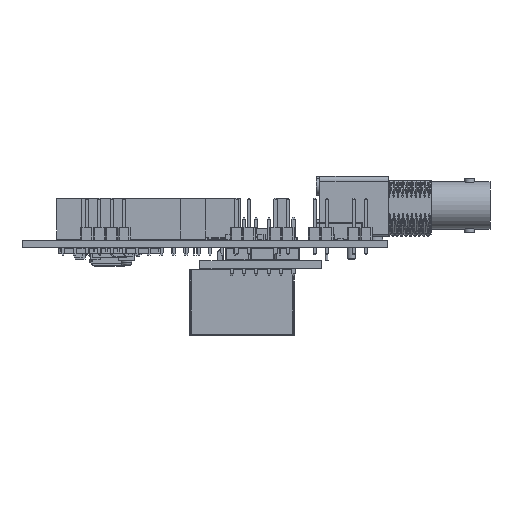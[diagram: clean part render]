
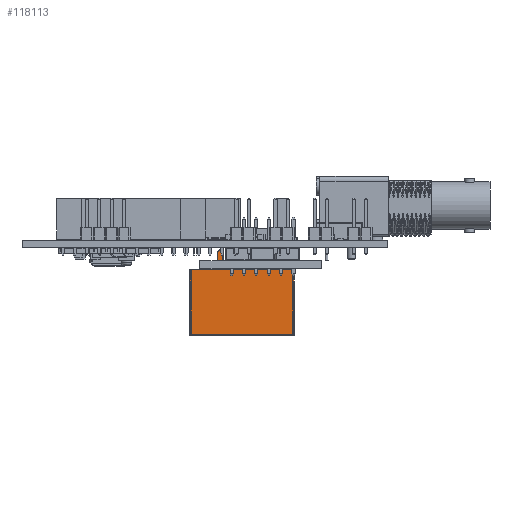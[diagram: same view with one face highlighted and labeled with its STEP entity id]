
A CAD part, left-side view. The second image highlights one B-rep face of the part: STEP entity #118113.
In plain terms, the highlighted planar face has unit normal (-1, 0, 0) as drawn and (1, 0, 0) by its records, which use the part's own axes.
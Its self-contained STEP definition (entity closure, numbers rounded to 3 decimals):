
#116611 = VERTEX_POINT('',#116612);
#116612 = CARTESIAN_POINT('',(19.35,5.8,1.9));
#116674 = VERTEX_POINT('',#116675);
#116675 = CARTESIAN_POINT('',(19.35,20.285,1.9));
#116681 = EDGE_CURVE('',#116611,#116674,#116682,.T.);
#116682 = B_SPLINE_CURVE_WITH_KNOTS('',1,(#116683,#116684),
  .UNSPECIFIED.,.F.,.F.,(2,2),(0.,14.485),.PIECEWISE_BEZIER_KNOTS.);
#116683 = CARTESIAN_POINT('',(19.35,5.8,1.9));
#116684 = CARTESIAN_POINT('',(19.35,20.285,1.9));
#116796 = VERTEX_POINT('',#116797);
#116797 = CARTESIAN_POINT('',(19.35,5.8,15.3));
#116864 = EDGE_CURVE('',#116796,#116611,#116865,.T.);
#116865 = B_SPLINE_CURVE_WITH_KNOTS('',1,(#116866,#116867),
  .UNSPECIFIED.,.F.,.F.,(2,2),(0.,13.4),.PIECEWISE_BEZIER_KNOTS.);
#116866 = CARTESIAN_POINT('',(19.35,5.8,15.3));
#116867 = CARTESIAN_POINT('',(19.35,5.8,1.9));
#117041 = VERTEX_POINT('',#117042);
#117042 = CARTESIAN_POINT('',(19.35,27.,15.3));
#117114 = VERTEX_POINT('',#117115);
#117115 = CARTESIAN_POINT('',(19.35,27.,1.9));
#117213 = VERTEX_POINT('',#117214);
#117214 = CARTESIAN_POINT('',(19.35,21.355,1.9));
#117226 = EDGE_CURVE('',#117213,#117114,#117227,.T.);
#117227 = B_SPLINE_CURVE_WITH_KNOTS('',1,(#117228,#117229),
  .UNSPECIFIED.,.F.,.F.,(2,2),(0.,5.645),.PIECEWISE_BEZIER_KNOTS.);
#117228 = CARTESIAN_POINT('',(19.35,21.355,1.9));
#117229 = CARTESIAN_POINT('',(19.35,27.,1.9));
#117253 = EDGE_CURVE('',#117114,#117041,#117254,.T.);
#117254 = B_SPLINE_CURVE_WITH_KNOTS('',1,(#117255,#117256),
  .UNSPECIFIED.,.F.,.F.,(2,2),(0.,13.4),.PIECEWISE_BEZIER_KNOTS.);
#117255 = CARTESIAN_POINT('',(19.35,27.,1.9));
#117256 = CARTESIAN_POINT('',(19.35,27.,15.3));
#117283 = EDGE_CURVE('',#116796,#117041,#117284,.T.);
#117284 = B_SPLINE_CURVE_WITH_KNOTS('',1,(#117285,#117286),
  .UNSPECIFIED.,.F.,.F.,(2,2),(0.,21.2),.PIECEWISE_BEZIER_KNOTS.);
#117285 = CARTESIAN_POINT('',(19.35,5.8,15.3));
#117286 = CARTESIAN_POINT('',(19.35,27.,15.3));
#117378 = EDGE_CURVE('',#117379,#117213,#117381,.T.);
#117379 = VERTEX_POINT('',#117380);
#117380 = CARTESIAN_POINT('',(19.35,21.355,-1.565));
#117381 = B_SPLINE_CURVE_WITH_KNOTS('',1,(#117382,#117383),
  .UNSPECIFIED.,.F.,.F.,(2,2),(0.,3.465),.PIECEWISE_BEZIER_KNOTS.);
#117382 = CARTESIAN_POINT('',(19.35,21.355,-1.565));
#117383 = CARTESIAN_POINT('',(19.35,21.355,1.9));
#117414 = EDGE_CURVE('',#117415,#117379,#117417,.T.);
#117415 = VERTEX_POINT('',#117416);
#117416 = CARTESIAN_POINT('',(19.35,20.82,-2.1));
#117417 = ( BOUNDED_CURVE() B_SPLINE_CURVE(2,(#117418,#117419,#117420),
.UNSPECIFIED.,.F.,.F.) B_SPLINE_CURVE_WITH_KNOTS((3,3),(0.84,
1.681),.PIECEWISE_BEZIER_KNOTS.) CURVE() 
GEOMETRIC_REPRESENTATION_ITEM() RATIONAL_B_SPLINE_CURVE((1.,
0.707,1.)) REPRESENTATION_ITEM('') );
#117418 = CARTESIAN_POINT('',(19.35,20.82,-2.1));
#117419 = CARTESIAN_POINT('',(19.35,21.355,-2.1));
#117420 = CARTESIAN_POINT('',(19.35,21.355,-1.565));
#117517 = EDGE_CURVE('',#117518,#117415,#117520,.T.);
#117518 = VERTEX_POINT('',#117519);
#117519 = CARTESIAN_POINT('',(19.35,20.285,-1.565));
#117520 = ( BOUNDED_CURVE() B_SPLINE_CURVE(2,(#117521,#117522,#117523),
.UNSPECIFIED.,.F.,.F.) B_SPLINE_CURVE_WITH_KNOTS((3,3),(0.,
0.84),.PIECEWISE_BEZIER_KNOTS.) CURVE() 
GEOMETRIC_REPRESENTATION_ITEM() RATIONAL_B_SPLINE_CURVE((1.,
0.707,1.)) REPRESENTATION_ITEM('') );
#117521 = CARTESIAN_POINT('',(19.35,20.285,-1.565));
#117522 = CARTESIAN_POINT('',(19.35,20.285,-2.1));
#117523 = CARTESIAN_POINT('',(19.35,20.82,-2.1));
#117619 = EDGE_CURVE('',#116674,#117518,#117620,.T.);
#117620 = B_SPLINE_CURVE_WITH_KNOTS('',1,(#117621,#117622),
  .UNSPECIFIED.,.F.,.F.,(2,2),(0.,3.465),.PIECEWISE_BEZIER_KNOTS.);
#117621 = CARTESIAN_POINT('',(19.35,20.285,1.9));
#117622 = CARTESIAN_POINT('',(19.35,20.285,-1.565));
#118113 = ADVANCED_FACE('',(#118114),#118125,.T.);
#118114 = FACE_BOUND('',#118115,.T.);
#118115 = EDGE_LOOP('',(#118116,#118117,#118118,#118119,#118120,#118121,
    #118122,#118123,#118124));
#118116 = ORIENTED_EDGE('',*,*,#117253,.T.);
#118117 = ORIENTED_EDGE('',*,*,#117283,.F.);
#118118 = ORIENTED_EDGE('',*,*,#116864,.T.);
#118119 = ORIENTED_EDGE('',*,*,#116681,.T.);
#118120 = ORIENTED_EDGE('',*,*,#117619,.T.);
#118121 = ORIENTED_EDGE('',*,*,#117517,.T.);
#118122 = ORIENTED_EDGE('',*,*,#117414,.T.);
#118123 = ORIENTED_EDGE('',*,*,#117378,.T.);
#118124 = ORIENTED_EDGE('',*,*,#117226,.T.);
#118125 = PLANE('',#118126);
#118126 = AXIS2_PLACEMENT_3D('',#118127,#118128,#118129);
#118127 = CARTESIAN_POINT('',(19.35,29.24,-3.96));
#118128 = DIRECTION('',(1.,0.,0.));
#118129 = DIRECTION('',(-0.,0.,1.));
